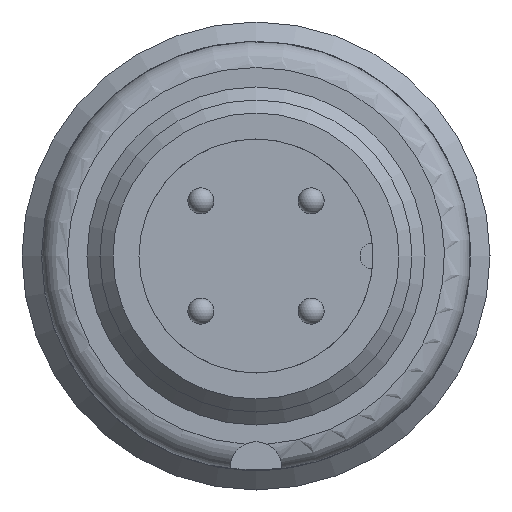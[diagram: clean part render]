
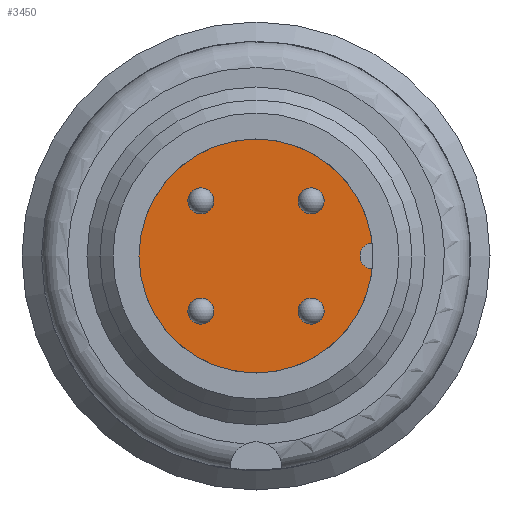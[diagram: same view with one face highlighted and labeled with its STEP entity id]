
A CAD part, left-side view. The second image highlights one B-rep face of the part: STEP entity #3450.
In plain terms, the highlighted planar face has unit normal (-1, 0, 0).
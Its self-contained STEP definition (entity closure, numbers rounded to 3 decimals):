
#3118=CARTESIAN_POINT('',(-43.018,-4.472,0.499));
#3119=VERTEX_POINT('',#3118);
#3128=CARTESIAN_POINT('',(-43.018,-4.472,-0.499));
#3129=VERTEX_POINT('',#3128);
#3130=CARTESIAN_POINT('',(-43.018,-4.5,0.0));
#3131=DIRECTION('',(1.0,0.0,0.0));
#3132=DIRECTION('',(0.0,0.0,-1.0));
#3133=AXIS2_PLACEMENT_3D('',#3130,#3131,#3132);
#3134=CIRCLE('',#3133,0.5);
#3135=EDGE_CURVE('',#3129,#3119,#3134,.T.);
#3179=CARTESIAN_POINT('',(-43.018,0.,0.0));
#3180=DIRECTION('',(1.0,0.0,0.0));
#3181=DIRECTION('',(0.0,1.0,0.0));
#3182=AXIS2_PLACEMENT_3D('',#3179,#3180,#3181);
#3183=CIRCLE('',#3182,4.5);
#3184=EDGE_CURVE('',#3129,#3119,#3183,.T.);
#3231=CARTESIAN_POINT('',(-43.018,-2.121,-1.621));
#3232=VERTEX_POINT('',#3231);
#3233=CARTESIAN_POINT('',(-43.018,-2.121,-2.121));
#3234=DIRECTION('',(1.0,0.0,0.0));
#3235=DIRECTION('',(0.0,0.0,-1.0));
#3236=AXIS2_PLACEMENT_3D('',#3233,#3234,#3235);
#3237=CIRCLE('',#3236,0.5);
#3238=EDGE_CURVE('',#3232,#3232,#3237,.T.);
#3278=CARTESIAN_POINT('',(-43.018,-2.121,2.621));
#3279=VERTEX_POINT('',#3278);
#3280=CARTESIAN_POINT('',(-43.018,-2.121,2.121));
#3281=DIRECTION('',(1.0,0.0,0.0));
#3282=DIRECTION('',(0.0,0.0,-1.0));
#3283=AXIS2_PLACEMENT_3D('',#3280,#3281,#3282);
#3284=CIRCLE('',#3283,0.5);
#3285=EDGE_CURVE('',#3279,#3279,#3284,.T.);
#3325=CARTESIAN_POINT('',(-43.018,2.121,-1.621));
#3326=VERTEX_POINT('',#3325);
#3327=CARTESIAN_POINT('',(-43.018,2.121,-2.121));
#3328=DIRECTION('',(1.0,0.0,0.0));
#3329=DIRECTION('',(0.0,0.0,-1.0));
#3330=AXIS2_PLACEMENT_3D('',#3327,#3328,#3329);
#3331=CIRCLE('',#3330,0.5);
#3332=EDGE_CURVE('',#3326,#3326,#3331,.T.);
#3372=CARTESIAN_POINT('',(-43.018,2.121,2.621));
#3373=VERTEX_POINT('',#3372);
#3374=CARTESIAN_POINT('',(-43.018,2.121,2.121));
#3375=DIRECTION('',(1.0,0.0,0.0));
#3376=DIRECTION('',(0.0,0.0,-1.0));
#3377=AXIS2_PLACEMENT_3D('',#3374,#3375,#3376);
#3378=CIRCLE('',#3377,0.5);
#3379=EDGE_CURVE('',#3373,#3373,#3378,.T.);
#3429=CARTESIAN_POINT('',(-43.018,2.25,0.0));
#3430=DIRECTION('',(-1.0,0.0,0.0));
#3431=DIRECTION('',(0.0,0.0,1.0));
#3432=AXIS2_PLACEMENT_3D('',#3429,#3430,#3431);
#3433=PLANE('',#3432);
#3434=ORIENTED_EDGE('',*,*,#3135,.T.);
#3435=ORIENTED_EDGE('',*,*,#3184,.F.);
#3436=EDGE_LOOP('',(#3434,#3435));
#3437=FACE_OUTER_BOUND('',#3436,.T.);
#3438=ORIENTED_EDGE('',*,*,#3332,.T.);
#3439=EDGE_LOOP('',(#3438));
#3440=FACE_BOUND('',#3439,.T.);
#3441=ORIENTED_EDGE('',*,*,#3285,.T.);
#3442=EDGE_LOOP('',(#3441));
#3443=FACE_BOUND('',#3442,.T.);
#3444=ORIENTED_EDGE('',*,*,#3379,.T.);
#3445=EDGE_LOOP('',(#3444));
#3446=FACE_BOUND('',#3445,.T.);
#3447=ORIENTED_EDGE('',*,*,#3238,.T.);
#3448=EDGE_LOOP('',(#3447));
#3449=FACE_BOUND('',#3448,.T.);
#3450=ADVANCED_FACE('',(#3437,#3440,#3443,#3446,#3449),#3433,.T.);
